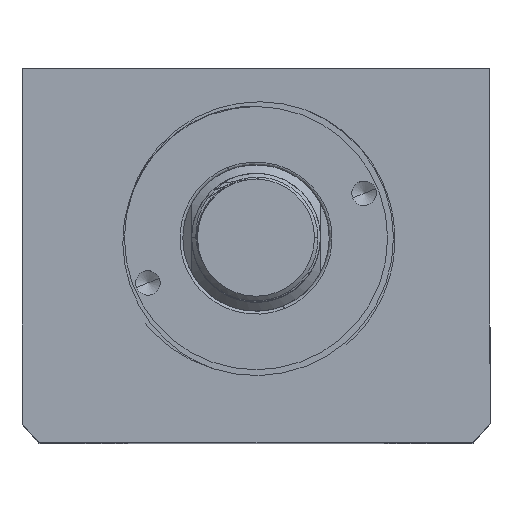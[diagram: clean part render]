
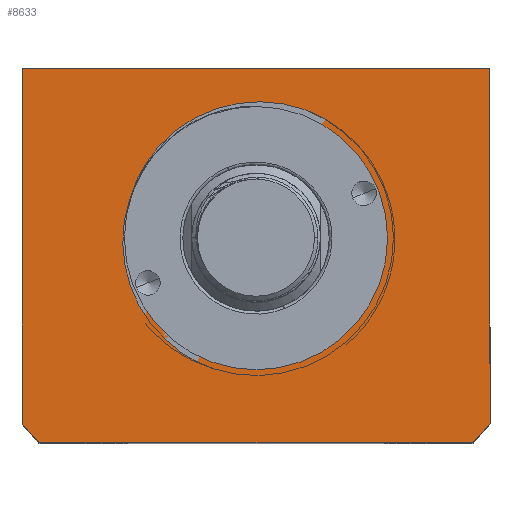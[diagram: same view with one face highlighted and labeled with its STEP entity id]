
A CAD part, top view. The second image highlights one B-rep face of the part: STEP entity #8633.
In plain terms, the highlighted planar face has unit normal (0, 0, 1).
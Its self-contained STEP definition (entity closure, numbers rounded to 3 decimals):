
#124 = FACE_OUTER_BOUND ( 'NONE', #2643, .T. ) ;
#595 = CARTESIAN_POINT ( 'NONE',  ( 0., 0., 65. ) ) ;
#799 = CARTESIAN_POINT ( 'NONE',  ( -40., -75.507, 65. ) ) ;
#1065 = ORIENTED_EDGE ( 'NONE', *, *, #10956, .T. ) ;
#1241 = VERTEX_POINT ( 'NONE', #2071 ) ;
#1631 = DIRECTION ( 'NONE',  ( 1., 0., 0. ) ) ;
#1853 = EDGE_LOOP ( 'NONE', ( #2191, #11862 ) ) ;
#1887 = EDGE_CURVE ( 'NONE', #1241, #4338, #4561, .T. ) ;
#2071 = CARTESIAN_POINT ( 'NONE',  ( 40., -72.145, 65. ) ) ;
#2191 = ORIENTED_EDGE ( 'NONE', *, *, #2272, .F. ) ;
#2210 = ORIENTED_EDGE ( 'NONE', *, *, #7739, .T. ) ;
#2272 = EDGE_CURVE ( 'NONE', #8120, #4914, #8428, .T. ) ;
#2280 = VERTEX_POINT ( 'NONE', #4584 ) ;
#2343 = DIRECTION ( 'NONE',  ( -1., 0., 0. ) ) ;
#2439 = AXIS2_PLACEMENT_3D ( 'NONE', #595, #7820, #1631 ) ;
#2451 = VECTOR ( 'NONE', #5697, 1000. ) ;
#2643 = EDGE_LOOP ( 'NONE', ( #5719, #2210, #3431, #1065, #9820, #10855 ) ) ;
#3289 = CARTESIAN_POINT ( 'NONE',  ( -40., -11.507, 65. ) ) ;
#3307 = DIRECTION ( 'NONE',  ( 0., 0., 1. ) ) ;
#3405 = CIRCLE ( 'NONE', #6843, 22.5 ) ;
#3431 = ORIENTED_EDGE ( 'NONE', *, *, #10574, .T. ) ;
#3510 = EDGE_CURVE ( 'NONE', #4338, #10819, #11497, .T. ) ;
#3922 = VECTOR ( 'NONE', #8200, 1000. ) ;
#3980 = EDGE_CURVE ( 'NONE', #4914, #8120, #3405, .T. ) ;
#4118 = CARTESIAN_POINT ( 'NONE',  ( -40., -11.507, 65. ) ) ;
#4338 = VERTEX_POINT ( 'NONE', #11833 ) ;
#4356 = DIRECTION ( 'NONE',  ( 0., 0., 1. ) ) ;
#4561 = LINE ( 'NONE', #10658, #2451 ) ;
#4584 = CARTESIAN_POINT ( 'NONE',  ( 37.094, -75.507, 65. ) ) ;
#4914 = VERTEX_POINT ( 'NONE', #6132 ) ;
#5061 = DIRECTION ( 'NONE',  ( 0., 0., 1. ) ) ;
#5278 = CARTESIAN_POINT ( 'NONE',  ( -37.094, -75.507, 65. ) ) ;
#5373 = CARTESIAN_POINT ( 'NONE',  ( -40., -11.507, 65. ) ) ;
#5438 = CARTESIAN_POINT ( 'NONE',  ( 0., -40.507, 65. ) ) ;
#5697 = DIRECTION ( 'NONE',  ( 0., 1., 0. ) ) ;
#5719 = ORIENTED_EDGE ( 'NONE', *, *, #9993, .T. ) ;
#5859 = VECTOR ( 'NONE', #7003, 1000. ) ;
#6132 = CARTESIAN_POINT ( 'NONE',  ( -22.5, -40.507, 65. ) ) ;
#6239 = CARTESIAN_POINT ( 'NONE',  ( 0., -40.507, 65. ) ) ;
#6343 = LINE ( 'NONE', #4118, #3922 ) ;
#6464 = CIRCLE ( 'NONE', #9446, 51. ) ;
#6479 = DIRECTION ( 'NONE',  ( 1., 0., 0. ) ) ;
#6750 = PLANE ( 'NONE',  #2439 ) ;
#6843 = AXIS2_PLACEMENT_3D ( 'NONE', #5438, #12650, #6479 ) ;
#6938 = AXIS2_PLACEMENT_3D ( 'NONE', #6239, #3307, #9410 ) ;
#7003 = DIRECTION ( 'NONE',  ( 1., 0., 0. ) ) ;
#7320 = VERTEX_POINT ( 'NONE', #12526 ) ;
#7388 = AXIS2_PLACEMENT_3D ( 'NONE', #10526, #4356, #11574 ) ;
#7739 = EDGE_CURVE ( 'NONE', #7320, #10887, #6464, .T. ) ;
#7820 = DIRECTION ( 'NONE',  ( 0., 0., 1. ) ) ;
#8120 = VERTEX_POINT ( 'NONE', #9041 ) ;
#8200 = DIRECTION ( 'NONE',  ( 0., -1., 0. ) ) ;
#8428 = CIRCLE ( 'NONE', #6938, 22.5 ) ;
#8633 = ADVANCED_FACE ( 'NONE', ( #10824, #124 ), #6750, .T. ) ;
#9041 = CARTESIAN_POINT ( 'NONE',  ( 22.5, -40.507, 65. ) ) ;
#9410 = DIRECTION ( 'NONE',  ( 1., 0., 0. ) ) ;
#9446 = AXIS2_PLACEMENT_3D ( 'NONE', #11248, #5061, #12287 ) ;
#9820 = ORIENTED_EDGE ( 'NONE', *, *, #1887, .T. ) ;
#9993 = EDGE_CURVE ( 'NONE', #10819, #7320, #6343, .T. ) ;
#10523 = VECTOR ( 'NONE', #2343, 1000. ) ;
#10526 = CARTESIAN_POINT ( 'NONE',  ( 0., -40.507, 65. ) ) ;
#10574 = EDGE_CURVE ( 'NONE', #10887, #2280, #11030, .T. ) ;
#10658 = CARTESIAN_POINT ( 'NONE',  ( 40., -11.507, 65. ) ) ;
#10819 = VERTEX_POINT ( 'NONE', #5373 ) ;
#10824 = FACE_BOUND ( 'NONE', #1853, .T. ) ;
#10855 = ORIENTED_EDGE ( 'NONE', *, *, #3510, .T. ) ;
#10887 = VERTEX_POINT ( 'NONE', #5278 ) ;
#10956 = EDGE_CURVE ( 'NONE', #2280, #1241, #12780, .T. ) ;
#11030 = LINE ( 'NONE', #799, #5859 ) ;
#11248 = CARTESIAN_POINT ( 'NONE',  ( 0., -40.507, 65. ) ) ;
#11497 = LINE ( 'NONE', #3289, #10523 ) ;
#11574 = DIRECTION ( 'NONE',  ( 1., 0., 0. ) ) ;
#11833 = CARTESIAN_POINT ( 'NONE',  ( 40., -11.507, 65. ) ) ;
#11862 = ORIENTED_EDGE ( 'NONE', *, *, #3980, .F. ) ;
#12287 = DIRECTION ( 'NONE',  ( 1., 0., 0. ) ) ;
#12526 = CARTESIAN_POINT ( 'NONE',  ( -40., -72.145, 65. ) ) ;
#12650 = DIRECTION ( 'NONE',  ( 0., 0., 1. ) ) ;
#12780 = CIRCLE ( 'NONE', #7388, 51. ) ;
